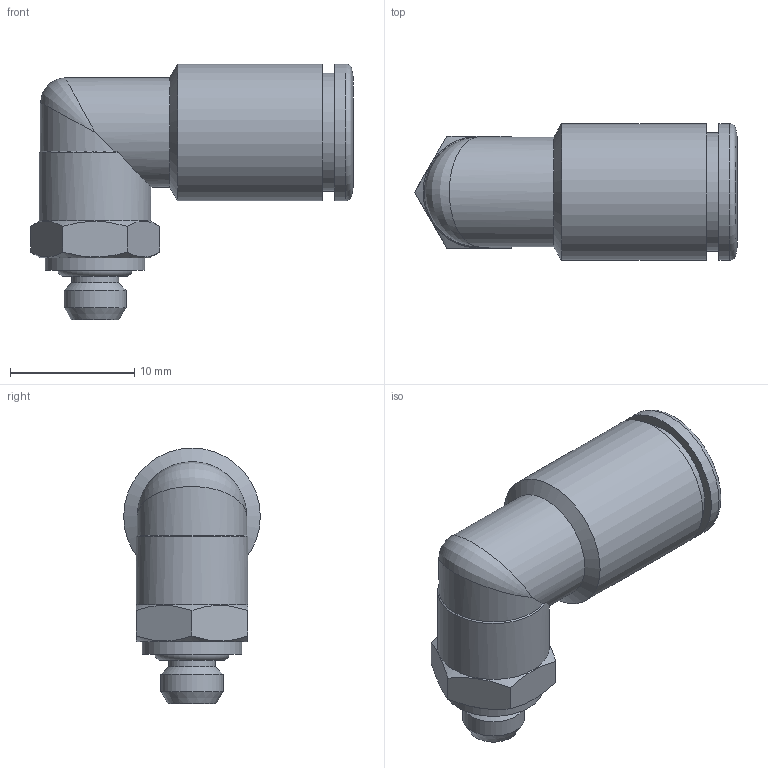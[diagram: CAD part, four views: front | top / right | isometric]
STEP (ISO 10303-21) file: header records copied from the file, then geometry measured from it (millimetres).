
FILE_DESCRIPTION(/* description */ (''),/* implementation_level */ '2;1');
FILE_NAME(/* name */ 'V202215_IPSO_022_6_M5_27.05.15',/* time_stamp */ '2015-05-27T08:55:40+02:00',/* author */ (''),/* organization */ (''),/* preprocessor_version */ 'ST-DEVELOPER v14',/* originating_system */ 'HiCAD 2013 1802.4 Build 509',/* authorisation */ '');
FILE_SCHEMA (('AUTOMOTIVE_DESIGN { 1 0 10303 214 1 1 1 1 }'));
Length unit declared in the file: millimetre
Products named in the file (5): Root; OR 4X1.2; DR6-1_NEU; 214601-N2; R202215-I1-N2A
Assembly tree (4 placements, depth 2):
  Root
    OR 4X1.2
    DR6-1_NEU
    214601-N2
    R202215-I1-N2A
Bounding box: 26 x 11 x 20.6 mm (x, y, z)
Volume: 1755.5 mm3; surface area: 2594.4 mm2
Topology: 4 solids, 5 shells, 67 faces, 149 edges, 93 vertices
Faces by surface type: cylinder 22, cone 20, plane 20, torus 4, bspline 1
Full cylindrical faces by diameter (mm): 2.6 x1, 3.8 x1, 4 x1, 5 x1, 6 x1, 6.1 x1, 6.2 x1, 6.8 x2, 7.85 x1, 7.9 x1, 8 x1, 8.3 x1, 8.8 x1, 9 x2, 9.5 x1, 9.6 x1, 11 x2
Entity records: 3523 total; most frequent: CARTESIAN_POINT 1346, DIRECTION 292, PRESENTATION_STYLE_ASSIGNMENT 176, COLOUR_RGB 174, DRAUGHTING_PRE_DEFINED_CURVE_FONT 172, CURVE_STYLE 172, OVER_RIDING_STYLED_ITEM 172, ORIENTED_EDGE 172
